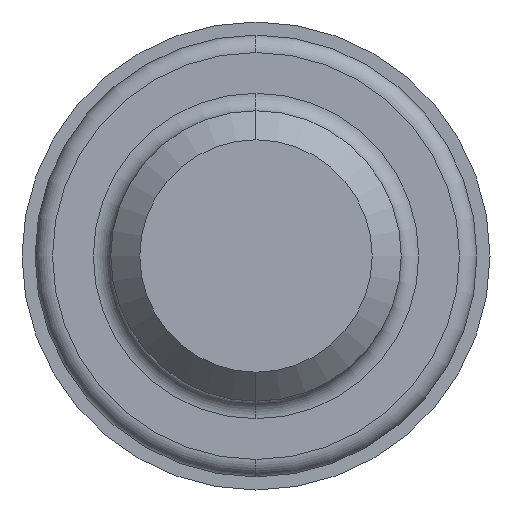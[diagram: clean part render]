
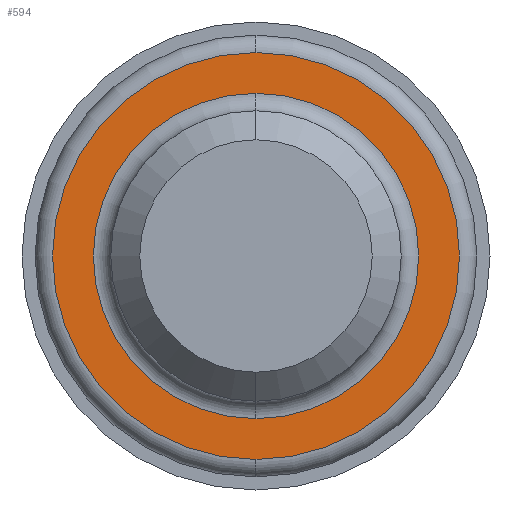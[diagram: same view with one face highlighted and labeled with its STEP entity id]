
A CAD part, left-side view. The second image highlights one B-rep face of the part: STEP entity #594.
In plain terms, the highlighted planar face has unit normal (-1, 0, 0).
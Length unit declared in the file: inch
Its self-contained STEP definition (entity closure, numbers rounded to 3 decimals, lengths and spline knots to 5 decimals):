
#2 = CARTESIAN_POINT ( 'NONE',  ( 2., 0., -0.27985 ) ) ;
#5 = CIRCLE ( 'NONE', #587, 0.27985 ) ;
#7 = VERTEX_POINT ( 'NONE', #247 ) ;
#12 = CARTESIAN_POINT ( 'NONE',  ( 2., 0., 0. ) ) ;
#18 = CIRCLE ( 'NONE', #442, 0.27985 ) ;
#28 = FACE_BOUND ( 'NONE', #632, .T. ) ;
#38 = CARTESIAN_POINT ( 'NONE',  ( 2., 0., 0. ) ) ;
#47 = EDGE_CURVE ( 'NONE', #209, #174, #18, .T. ) ;
#77 = DIRECTION ( 'NONE',  ( -1., 0., 0. ) ) ;
#135 = DIRECTION ( 'NONE',  ( 1., 0., 0. ) ) ;
#145 = CIRCLE ( 'NONE', #288, 0.35 ) ;
#163 = DIRECTION ( 'NONE',  ( 0., 0., 1. ) ) ;
#169 = DIRECTION ( 'NONE',  ( 0., 0., 1. ) ) ;
#174 = VERTEX_POINT ( 'NONE', #2 ) ;
#192 = PLANE ( 'NONE',  #312 ) ;
#209 = VERTEX_POINT ( 'NONE', #631 ) ;
#217 = DIRECTION ( 'NONE',  ( -1., 0., 0. ) ) ;
#219 = CARTESIAN_POINT ( 'NONE',  ( 2., 0., 0.35 ) ) ;
#243 = DIRECTION ( 'NONE',  ( -1., 0., 0. ) ) ;
#247 = CARTESIAN_POINT ( 'NONE',  ( 2., 0., -0.35 ) ) ;
#251 = ORIENTED_EDGE ( 'NONE', *, *, #255, .F. ) ;
#255 = EDGE_CURVE ( 'NONE', #174, #209, #5, .T. ) ;
#260 = ORIENTED_EDGE ( 'NONE', *, *, #377, .T. ) ;
#275 = DIRECTION ( 'NONE',  ( -1., 0., 0. ) ) ;
#288 = AXIS2_PLACEMENT_3D ( 'NONE', #12, #217, #163 ) ;
#312 = AXIS2_PLACEMENT_3D ( 'NONE', #458, #135, #513 ) ;
#342 = EDGE_CURVE ( 'NONE', #7, #415, #145, .T. ) ;
#377 = EDGE_CURVE ( 'NONE', #415, #7, #444, .T. ) ;
#415 = VERTEX_POINT ( 'NONE', #219 ) ;
#432 = ORIENTED_EDGE ( 'NONE', *, *, #342, .T. ) ;
#442 = AXIS2_PLACEMENT_3D ( 'NONE', #541, #77, #672 ) ;
#444 = CIRCLE ( 'NONE', #532, 0.35 ) ;
#458 = CARTESIAN_POINT ( 'NONE',  ( 2., 0.35, 0. ) ) ;
#479 = CARTESIAN_POINT ( 'NONE',  ( 2., 0., 0. ) ) ;
#513 = DIRECTION ( 'NONE',  ( 0., 0., -1. ) ) ;
#532 = AXIS2_PLACEMENT_3D ( 'NONE', #479, #275, #169 ) ;
#541 = CARTESIAN_POINT ( 'NONE',  ( 2., 0., 0. ) ) ;
#559 = EDGE_LOOP ( 'NONE', ( #260, #432 ) ) ;
#571 = DIRECTION ( 'NONE',  ( 0., 0., 1. ) ) ;
#587 = AXIS2_PLACEMENT_3D ( 'NONE', #38, #243, #571 ) ;
#594 = ADVANCED_FACE ( 'NONE', ( #28, #670 ), #192, .F. ) ;
#631 = CARTESIAN_POINT ( 'NONE',  ( 2., 0., 0.27985 ) ) ;
#632 = EDGE_LOOP ( 'NONE', ( #688, #251 ) ) ;
#670 = FACE_OUTER_BOUND ( 'NONE', #559, .T. ) ;
#672 = DIRECTION ( 'NONE',  ( 0., 0., 1. ) ) ;
#688 = ORIENTED_EDGE ( 'NONE', *, *, #47, .F. ) ;
